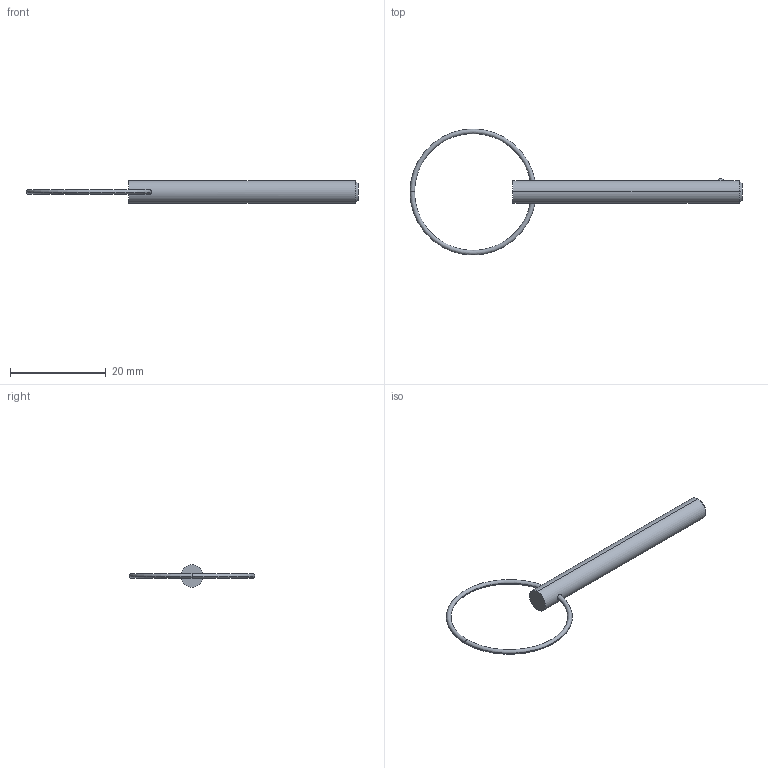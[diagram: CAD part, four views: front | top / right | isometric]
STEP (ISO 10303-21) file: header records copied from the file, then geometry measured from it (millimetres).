
FILE_DESCRIPTION (( 'STEP AP203' ), '1' );
FILE_NAME ('33012.W1815.step', '2024-11-01T14:05:55', ( '' ), ( '' ), 'SwSTEP 2.0', 'SolidWorks 2019', '' );
FILE_SCHEMA (( 'CONFIG_CONTROL_DESIGN' ));
Length unit declared in the file: millimetre
Products named in the file (3): Part2_33012.W1815; 33012.W1815; Part1_33012.W1815
Assembly tree (2 placements, depth 2):
  33012.W1815
    Part1_33012.W1815
    Part2_33012.W1815
Bounding box: 69.44 x 26.35 x 4.76 mm (x, y, z)
Volume: 902.3 mm3; surface area: 1001.3 mm2
Topology: 2 solids, 2 shells, 16 faces, 31 edges, 18 vertices
Faces by surface type: torus 8, sphere 2, cone 2, cylinder 2, plane 2
Entity records: 779 total; most frequent: CARTESIAN_POINT 136, DIRECTION 88, ORIENTED_EDGE 62, AXIS2_PLACEMENT_3D 42, EDGE_CURVE 31, PERSON_AND_ORGANIZATION 26, CIRCLE 21, EDGE_LOOP 19
